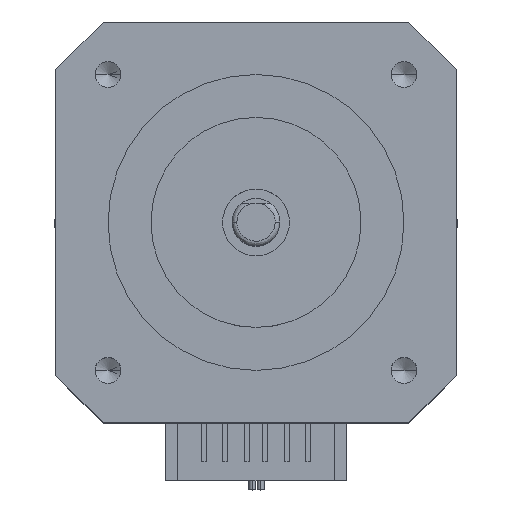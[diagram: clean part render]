
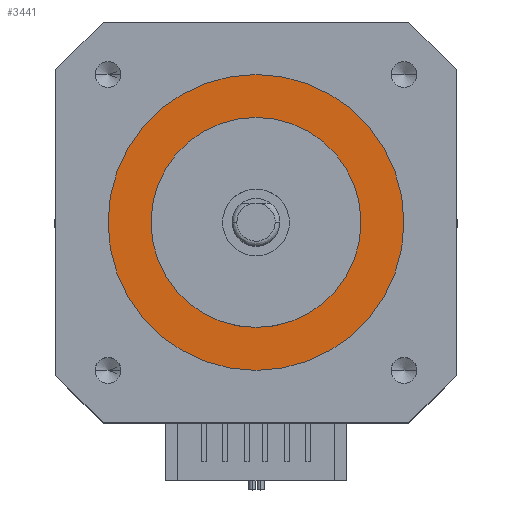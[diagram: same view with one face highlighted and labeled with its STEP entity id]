
A CAD part, top view. The second image highlights one B-rep face of the part: STEP entity #3441.
In plain terms, the highlighted planar face has unit normal (0, 0, 1).
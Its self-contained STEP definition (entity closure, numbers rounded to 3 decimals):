
#229 = EDGE_LOOP ( 'NONE', ( #6394, #6610 ) ) ;
#384 = CARTESIAN_POINT ( 'NONE',  ( 0., 0., -0.1 ) ) ;
#477 = CARTESIAN_POINT ( 'NONE',  ( -11., 0., -0.1 ) ) ;
#619 = AXIS2_PLACEMENT_3D ( 'NONE', #384, #4889, #5544 ) ;
#732 = CARTESIAN_POINT ( 'NONE',  ( 0., 0., -0.1 ) ) ;
#763 = CIRCLE ( 'NONE', #4652, 15.5 ) ;
#1882 = DIRECTION ( 'NONE',  ( 1., 0., 0. ) ) ;
#1903 = VERTEX_POINT ( 'NONE', #6239 ) ;
#1905 = CARTESIAN_POINT ( 'NONE',  ( 0., 0., -0.1 ) ) ;
#1931 = DIRECTION ( 'NONE',  ( 0., 0., -1. ) ) ;
#2953 = AXIS2_PLACEMENT_3D ( 'NONE', #5194, #1931, #7761 ) ;
#3441 = ADVANCED_FACE ( 'NONE', ( #4077, #4675 ), #7153, .F. ) ;
#3862 = DIRECTION ( 'NONE',  ( -1., 0., 0. ) ) ;
#3905 = CIRCLE ( 'NONE', #6171, 11. ) ;
#4077 = FACE_BOUND ( 'NONE', #229, .T. ) ;
#4083 = EDGE_CURVE ( 'NONE', #5405, #5090, #5579, .T. ) ;
#4432 = ORIENTED_EDGE ( 'NONE', *, *, #8176, .T. ) ;
#4652 = AXIS2_PLACEMENT_3D ( 'NONE', #1905, #5765, #1882 ) ;
#4675 = FACE_OUTER_BOUND ( 'NONE', #7508, .T. ) ;
#4687 = DIRECTION ( 'NONE',  ( 0., 0., 1. ) ) ;
#4889 = DIRECTION ( 'NONE',  ( 0., 0., 1. ) ) ;
#5090 = VERTEX_POINT ( 'NONE', #477 ) ;
#5120 = CARTESIAN_POINT ( 'NONE',  ( 0., 0., -0.1 ) ) ;
#5194 = CARTESIAN_POINT ( 'NONE',  ( 0., 0., -0.1 ) ) ;
#5405 = VERTEX_POINT ( 'NONE', #6100 ) ;
#5544 = DIRECTION ( 'NONE',  ( -1., 0., 0. ) ) ;
#5546 = CIRCLE ( 'NONE', #5619, 15.5 ) ;
#5579 = CIRCLE ( 'NONE', #619, 11. ) ;
#5619 = AXIS2_PLACEMENT_3D ( 'NONE', #732, #4687, #7262 ) ;
#5765 = DIRECTION ( 'NONE',  ( 0., 0., 1. ) ) ;
#5998 = ORIENTED_EDGE ( 'NONE', *, *, #6662, .T. ) ;
#6100 = CARTESIAN_POINT ( 'NONE',  ( 11., 0., -0.1 ) ) ;
#6171 = AXIS2_PLACEMENT_3D ( 'NONE', #5120, #7696, #3862 ) ;
#6239 = CARTESIAN_POINT ( 'NONE',  ( -15.5, 0., -0.1 ) ) ;
#6394 = ORIENTED_EDGE ( 'NONE', *, *, #7509, .F. ) ;
#6437 = VERTEX_POINT ( 'NONE', #7591 ) ;
#6610 = ORIENTED_EDGE ( 'NONE', *, *, #4083, .F. ) ;
#6662 = EDGE_CURVE ( 'NONE', #1903, #6437, #5546, .T. ) ;
#7153 = PLANE ( 'NONE',  #2953 ) ;
#7262 = DIRECTION ( 'NONE',  ( 1., 0., 0. ) ) ;
#7508 = EDGE_LOOP ( 'NONE', ( #4432, #5998 ) ) ;
#7509 = EDGE_CURVE ( 'NONE', #5090, #5405, #3905, .T. ) ;
#7591 = CARTESIAN_POINT ( 'NONE',  ( 15.5, 0., -0.1 ) ) ;
#7696 = DIRECTION ( 'NONE',  ( 0., 0., 1. ) ) ;
#7761 = DIRECTION ( 'NONE',  ( -1., 0., 0. ) ) ;
#8176 = EDGE_CURVE ( 'NONE', #6437, #1903, #763, .T. ) ;
